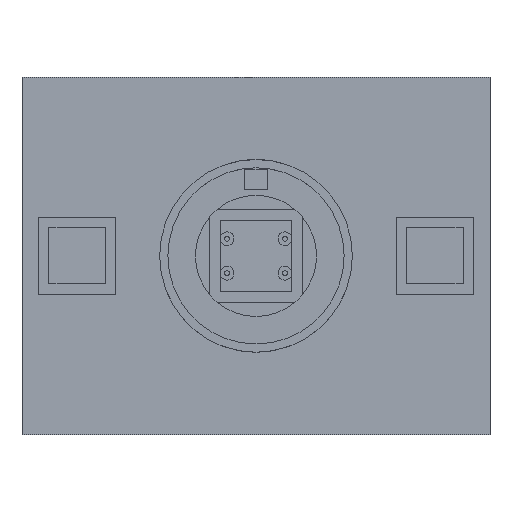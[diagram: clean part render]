
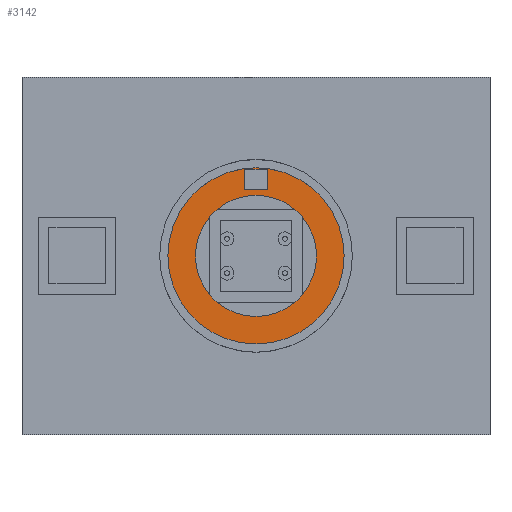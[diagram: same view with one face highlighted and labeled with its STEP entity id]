
A CAD part, top view. The second image highlights one B-rep face of the part: STEP entity #3142.
In plain terms, the highlighted planar face has unit normal (0, 0, 1).
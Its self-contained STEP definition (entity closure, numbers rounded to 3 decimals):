
#1546 = CYLINDRICAL_SURFACE('',#1547,32.);
#1547 = AXIS2_PLACEMENT_3D('',#1548,#1549,#1550);
#1548 = CARTESIAN_POINT('',(85.,65.,20.));
#1549 = DIRECTION('',(0.,0.,1.));
#1550 = DIRECTION('',(1.,0.,-0.));
#1601 = CONICAL_SURFACE('',#1602,32.,0.785);
#1602 = AXIS2_PLACEMENT_3D('',#1603,#1604,#1605);
#1603 = CARTESIAN_POINT('',(85.,65.,10.));
#1604 = DIRECTION('',(-0.,-0.,-1.));
#1605 = DIRECTION('',(1.,0.,-0.));
#1788 = PLANE('',#1789);
#1789 = AXIS2_PLACEMENT_3D('',#1790,#1791,#1792);
#1790 = CARTESIAN_POINT('',(81.,89.,9.));
#1791 = DIRECTION('',(-1.,0.,0.));
#1792 = DIRECTION('',(0.,0.,1.));
#1816 = PLANE('',#1817);
#1817 = AXIS2_PLACEMENT_3D('',#1818,#1819,#1820);
#1818 = CARTESIAN_POINT('',(89.,96.5,9.));
#1819 = DIRECTION('',(0.,1.,0.));
#1820 = DIRECTION('',(0.,0.,1.));
#1844 = PLANE('',#1845);
#1845 = AXIS2_PLACEMENT_3D('',#1846,#1847,#1848);
#1846 = CARTESIAN_POINT('',(89.,89.,9.));
#1847 = DIRECTION('',(-1.,0.,0.));
#1848 = DIRECTION('',(0.,0.,1.));
#2412 = VERTEX_POINT('',#2413);
#2413 = CARTESIAN_POINT('',(117.,65.,20.));
#2434 = EDGE_CURVE('',#2412,#2412,#2435,.T.);
#2435 = SURFACE_CURVE('',#2436,(#2441,#2448),.PCURVE_S1.);
#2436 = CIRCLE('',#2437,32.);
#2437 = AXIS2_PLACEMENT_3D('',#2438,#2439,#2440);
#2438 = CARTESIAN_POINT('',(85.,65.,20.));
#2439 = DIRECTION('',(0.,0.,1.));
#2440 = DIRECTION('',(1.,0.,-0.));
#2441 = PCURVE('',#1546,#2442);
#2442 = DEFINITIONAL_REPRESENTATION('',(#2443),#2447);
#2443 = LINE('',#2444,#2445);
#2444 = CARTESIAN_POINT('',(0.,0.));
#2445 = VECTOR('',#2446,1.);
#2446 = DIRECTION('',(1.,0.));
#2447 = ( GEOMETRIC_REPRESENTATION_CONTEXT(2) 
PARAMETRIC_REPRESENTATION_CONTEXT() REPRESENTATION_CONTEXT('2D SPACE',''
  ) );
#2448 = PCURVE('',#2449,#2454);
#2449 = PLANE('',#2450);
#2450 = AXIS2_PLACEMENT_3D('',#2451,#2452,#2453);
#2451 = CARTESIAN_POINT('',(85.,65.,20.));
#2452 = DIRECTION('',(0.,0.,1.));
#2453 = DIRECTION('',(1.,0.,-0.));
#2454 = DEFINITIONAL_REPRESENTATION('',(#2455),#2459);
#2455 = CIRCLE('',#2456,32.);
#2456 = AXIS2_PLACEMENT_2D('',#2457,#2458);
#2457 = CARTESIAN_POINT('',(0.,0.));
#2458 = DIRECTION('',(1.,0.));
#2459 = ( GEOMETRIC_REPRESENTATION_CONTEXT(2) 
PARAMETRIC_REPRESENTATION_CONTEXT() REPRESENTATION_CONTEXT('2D SPACE',''
  ) );
#2622 = VERTEX_POINT('',#2623);
#2623 = CARTESIAN_POINT('',(107.,65.,20.));
#2695 = PLANE('',#2696);
#2696 = AXIS2_PLACEMENT_3D('',#2697,#2698,#2699);
#2697 = CARTESIAN_POINT('',(89.,89.,9.));
#2698 = DIRECTION('',(0.,1.,0.));
#2699 = DIRECTION('',(0.,0.,1.));
#2736 = EDGE_CURVE('',#2622,#2622,#2737,.T.);
#2737 = SURFACE_CURVE('',#2738,(#2743,#2750),.PCURVE_S1.);
#2738 = CIRCLE('',#2739,22.);
#2739 = AXIS2_PLACEMENT_3D('',#2740,#2741,#2742);
#2740 = CARTESIAN_POINT('',(85.,65.,20.));
#2741 = DIRECTION('',(0.,0.,1.));
#2742 = DIRECTION('',(1.,0.,-0.));
#2743 = PCURVE('',#1601,#2744);
#2744 = DEFINITIONAL_REPRESENTATION('',(#2745),#2749);
#2745 = LINE('',#2746,#2747);
#2746 = CARTESIAN_POINT('',(-0.,-10.));
#2747 = VECTOR('',#2748,1.);
#2748 = DIRECTION('',(-1.,-0.));
#2749 = ( GEOMETRIC_REPRESENTATION_CONTEXT(2) 
PARAMETRIC_REPRESENTATION_CONTEXT() REPRESENTATION_CONTEXT('2D SPACE',''
  ) );
#2750 = PCURVE('',#2449,#2751);
#2751 = DEFINITIONAL_REPRESENTATION('',(#2752),#2756);
#2752 = CIRCLE('',#2753,22.);
#2753 = AXIS2_PLACEMENT_2D('',#2754,#2755);
#2754 = CARTESIAN_POINT('',(0.,0.));
#2755 = DIRECTION('',(1.,0.));
#2756 = ( GEOMETRIC_REPRESENTATION_CONTEXT(2) 
PARAMETRIC_REPRESENTATION_CONTEXT() REPRESENTATION_CONTEXT('2D SPACE',''
  ) );
#2762 = VERTEX_POINT('',#2763);
#2763 = CARTESIAN_POINT('',(89.,96.5,20.));
#2787 = VERTEX_POINT('',#2788);
#2788 = CARTESIAN_POINT('',(89.,89.,20.));
#2809 = EDGE_CURVE('',#2762,#2787,#2810,.T.);
#2810 = SURFACE_CURVE('',#2811,(#2815,#2822),.PCURVE_S1.);
#2811 = LINE('',#2812,#2813);
#2812 = CARTESIAN_POINT('',(89.,77.,20.));
#2813 = VECTOR('',#2814,1.);
#2814 = DIRECTION('',(0.,-1.,0.));
#2815 = PCURVE('',#1844,#2816);
#2816 = DEFINITIONAL_REPRESENTATION('',(#2817),#2821);
#2817 = LINE('',#2818,#2819);
#2818 = CARTESIAN_POINT('',(11.,-12.));
#2819 = VECTOR('',#2820,1.);
#2820 = DIRECTION('',(0.,-1.));
#2821 = ( GEOMETRIC_REPRESENTATION_CONTEXT(2) 
PARAMETRIC_REPRESENTATION_CONTEXT() REPRESENTATION_CONTEXT('2D SPACE',''
  ) );
#2822 = PCURVE('',#2449,#2823);
#2823 = DEFINITIONAL_REPRESENTATION('',(#2824),#2828);
#2824 = LINE('',#2825,#2826);
#2825 = CARTESIAN_POINT('',(4.,12.));
#2826 = VECTOR('',#2827,1.);
#2827 = DIRECTION('',(0.,-1.));
#2828 = ( GEOMETRIC_REPRESENTATION_CONTEXT(2) 
PARAMETRIC_REPRESENTATION_CONTEXT() REPRESENTATION_CONTEXT('2D SPACE',''
  ) );
#2836 = VERTEX_POINT('',#2837);
#2837 = CARTESIAN_POINT('',(81.,96.5,20.));
#2858 = EDGE_CURVE('',#2762,#2836,#2859,.T.);
#2859 = SURFACE_CURVE('',#2860,(#2864,#2871),.PCURVE_S1.);
#2860 = LINE('',#2861,#2862);
#2861 = CARTESIAN_POINT('',(87.,96.5,20.));
#2862 = VECTOR('',#2863,1.);
#2863 = DIRECTION('',(-1.,0.,0.));
#2864 = PCURVE('',#1816,#2865);
#2865 = DEFINITIONAL_REPRESENTATION('',(#2866),#2870);
#2866 = LINE('',#2867,#2868);
#2867 = CARTESIAN_POINT('',(11.,-2.));
#2868 = VECTOR('',#2869,1.);
#2869 = DIRECTION('',(0.,-1.));
#2870 = ( GEOMETRIC_REPRESENTATION_CONTEXT(2) 
PARAMETRIC_REPRESENTATION_CONTEXT() REPRESENTATION_CONTEXT('2D SPACE',''
  ) );
#2871 = PCURVE('',#2449,#2872);
#2872 = DEFINITIONAL_REPRESENTATION('',(#2873),#2877);
#2873 = LINE('',#2874,#2875);
#2874 = CARTESIAN_POINT('',(2.,31.5));
#2875 = VECTOR('',#2876,1.);
#2876 = DIRECTION('',(-1.,0.));
#2877 = ( GEOMETRIC_REPRESENTATION_CONTEXT(2) 
PARAMETRIC_REPRESENTATION_CONTEXT() REPRESENTATION_CONTEXT('2D SPACE',''
  ) );
#2886 = VERTEX_POINT('',#2887);
#2887 = CARTESIAN_POINT('',(81.,89.,20.));
#2908 = EDGE_CURVE('',#2836,#2886,#2909,.T.);
#2909 = SURFACE_CURVE('',#2910,(#2914,#2921),.PCURVE_S1.);
#2910 = LINE('',#2911,#2912);
#2911 = CARTESIAN_POINT('',(81.,77.,20.));
#2912 = VECTOR('',#2913,1.);
#2913 = DIRECTION('',(0.,-1.,0.));
#2914 = PCURVE('',#1788,#2915);
#2915 = DEFINITIONAL_REPRESENTATION('',(#2916),#2920);
#2916 = LINE('',#2917,#2918);
#2917 = CARTESIAN_POINT('',(11.,-12.));
#2918 = VECTOR('',#2919,1.);
#2919 = DIRECTION('',(0.,-1.));
#2920 = ( GEOMETRIC_REPRESENTATION_CONTEXT(2) 
PARAMETRIC_REPRESENTATION_CONTEXT() REPRESENTATION_CONTEXT('2D SPACE',''
  ) );
#2921 = PCURVE('',#2449,#2922);
#2922 = DEFINITIONAL_REPRESENTATION('',(#2923),#2927);
#2923 = LINE('',#2924,#2925);
#2924 = CARTESIAN_POINT('',(-4.,12.));
#2925 = VECTOR('',#2926,1.);
#2926 = DIRECTION('',(0.,-1.));
#2927 = ( GEOMETRIC_REPRESENTATION_CONTEXT(2) 
PARAMETRIC_REPRESENTATION_CONTEXT() REPRESENTATION_CONTEXT('2D SPACE',''
  ) );
#3142 = ADVANCED_FACE('',(#3143,#3146,#3149),#2449,.T.);
#3143 = FACE_BOUND('',#3144,.T.);
#3144 = EDGE_LOOP('',(#3145));
#3145 = ORIENTED_EDGE('',*,*,#2434,.T.);
#3146 = FACE_BOUND('',#3147,.T.);
#3147 = EDGE_LOOP('',(#3148));
#3148 = ORIENTED_EDGE('',*,*,#2736,.F.);
#3149 = FACE_BOUND('',#3150,.T.);
#3150 = EDGE_LOOP('',(#3151,#3152,#3173,#3174));
#3151 = ORIENTED_EDGE('',*,*,#2809,.T.);
#3152 = ORIENTED_EDGE('',*,*,#3153,.T.);
#3153 = EDGE_CURVE('',#2787,#2886,#3154,.T.);
#3154 = SURFACE_CURVE('',#3155,(#3159,#3166),.PCURVE_S1.);
#3155 = LINE('',#3156,#3157);
#3156 = CARTESIAN_POINT('',(87.,89.,20.));
#3157 = VECTOR('',#3158,1.);
#3158 = DIRECTION('',(-1.,0.,0.));
#3159 = PCURVE('',#2449,#3160);
#3160 = DEFINITIONAL_REPRESENTATION('',(#3161),#3165);
#3161 = LINE('',#3162,#3163);
#3162 = CARTESIAN_POINT('',(2.,24.));
#3163 = VECTOR('',#3164,1.);
#3164 = DIRECTION('',(-1.,0.));
#3165 = ( GEOMETRIC_REPRESENTATION_CONTEXT(2) 
PARAMETRIC_REPRESENTATION_CONTEXT() REPRESENTATION_CONTEXT('2D SPACE',''
  ) );
#3166 = PCURVE('',#2695,#3167);
#3167 = DEFINITIONAL_REPRESENTATION('',(#3168),#3172);
#3168 = LINE('',#3169,#3170);
#3169 = CARTESIAN_POINT('',(11.,-2.));
#3170 = VECTOR('',#3171,1.);
#3171 = DIRECTION('',(0.,-1.));
#3172 = ( GEOMETRIC_REPRESENTATION_CONTEXT(2) 
PARAMETRIC_REPRESENTATION_CONTEXT() REPRESENTATION_CONTEXT('2D SPACE',''
  ) );
#3173 = ORIENTED_EDGE('',*,*,#2908,.F.);
#3174 = ORIENTED_EDGE('',*,*,#2858,.F.);
